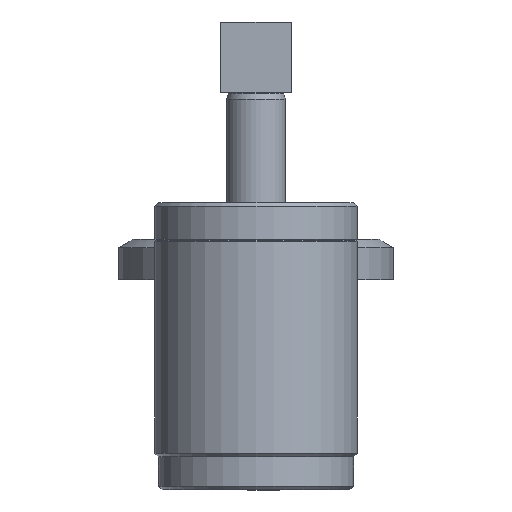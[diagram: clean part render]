
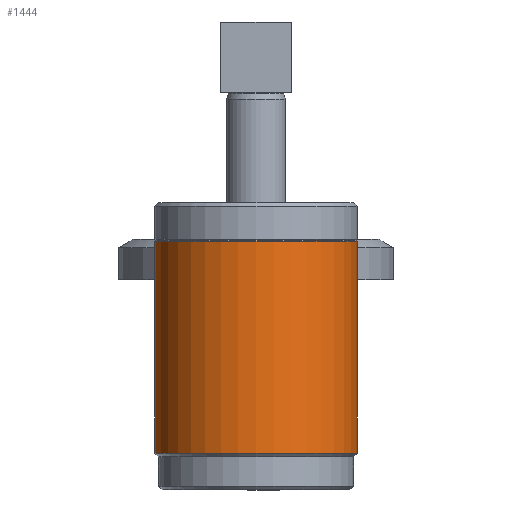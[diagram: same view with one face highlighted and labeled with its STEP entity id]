
A CAD part, left-side view. The second image highlights one B-rep face of the part: STEP entity #1444.
In plain terms, the highlighted cylindrical face has radius 27.5 mm (diameter 55 mm), a full revolution.
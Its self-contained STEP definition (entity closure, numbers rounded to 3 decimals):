
#59=CYLINDRICAL_SURFACE('',#1983,27.5);
#328=CIRCLE('',#1962,27.5);
#338=CIRCLE('',#1982,27.5);
#546=ORIENTED_EDGE('',*,*,#802,.F.);
#547=ORIENTED_EDGE('',*,*,#812,.T.);
#802=EDGE_CURVE('',#954,#954,#328,.T.);
#812=EDGE_CURVE('',#964,#964,#338,.T.);
#954=VERTEX_POINT('',#2867);
#964=VERTEX_POINT('',#2897);
#1154=EDGE_LOOP('',(#546));
#1155=EDGE_LOOP('',(#547));
#1314=FACE_BOUND('',#1154,.T.);
#1315=FACE_BOUND('',#1155,.T.);
#1444=ADVANCED_FACE('',(#1314,#1315),#59,.T.);
#1962=AXIS2_PLACEMENT_3D('',#2866,#2251,#2252);
#1982=AXIS2_PLACEMENT_3D('',#2896,#2291,#2292);
#1983=AXIS2_PLACEMENT_3D('',#2898,#2293,#2294);
#2251=DIRECTION('',(0.,0.,1.));
#2252=DIRECTION('',(1.,0.,0.));
#2291=DIRECTION('',(0.,0.,1.));
#2292=DIRECTION('',(1.,0.,0.));
#2293=DIRECTION('',(0.,0.,1.));
#2294=DIRECTION('',(1.,0.,0.));
#2866=CARTESIAN_POINT('',(0.,0.,67.5));
#2867=CARTESIAN_POINT('',(27.5,0.,67.5));
#2896=CARTESIAN_POINT('',(0.,0.,10.));
#2897=CARTESIAN_POINT('',(27.5,0.,10.));
#2898=CARTESIAN_POINT('',(0.,0.,141.5));
